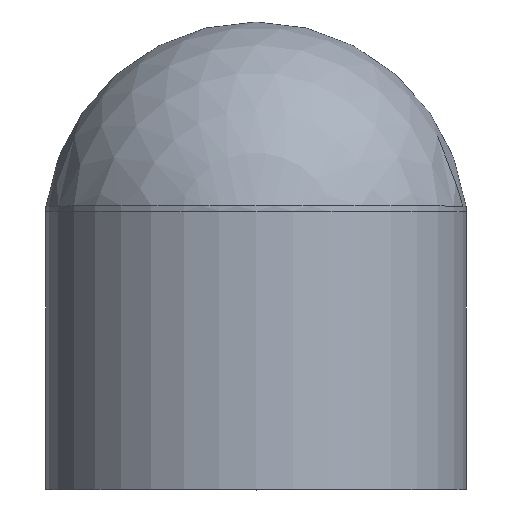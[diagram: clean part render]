
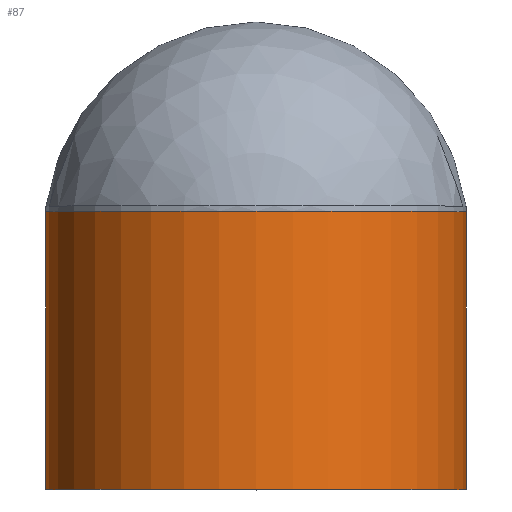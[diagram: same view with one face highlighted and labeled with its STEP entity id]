
A CAD part, top view. The second image highlights one B-rep face of the part: STEP entity #87.
In plain terms, the highlighted cylindrical face has radius 13.5 mm (diameter 27 mm), a full revolution.
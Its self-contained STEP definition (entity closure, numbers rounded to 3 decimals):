
#20=CYLINDRICAL_SURFACE('',#98,13.5);
#23=FACE_BOUND('',#37,.T.);
#28=FACE_OUTER_BOUND('',#36,.T.);
#36=EDGE_LOOP('',(#71));
#37=EDGE_LOOP('',(#72));
#46=CIRCLE('',#96,13.5);
#48=CIRCLE('',#99,13.5);
#53=VERTEX_POINT('',#138);
#55=VERTEX_POINT('',#143);
#61=EDGE_CURVE('',#53,#53,#46,.T.);
#63=EDGE_CURVE('',#55,#55,#48,.T.);
#71=ORIENTED_EDGE('',*,*,#63,.T.);
#72=ORIENTED_EDGE('',*,*,#61,.F.);
#87=ADVANCED_FACE('',(#28,#23),#20,.T.);
#96=AXIS2_PLACEMENT_3D('',#139,#112,#113);
#98=AXIS2_PLACEMENT_3D('',#142,#116,#117);
#99=AXIS2_PLACEMENT_3D('',#144,#118,#119);
#112=DIRECTION('center_axis',(0.,1.,0.));
#113=DIRECTION('ref_axis',(1.,0.,0.));
#116=DIRECTION('center_axis',(0.,1.,0.));
#117=DIRECTION('ref_axis',(-1.,0.,0.));
#118=DIRECTION('center_axis',(0.,1.,0.));
#119=DIRECTION('ref_axis',(1.,0.,0.));
#138=CARTESIAN_POINT('',(-13.5,17.832,0.));
#139=CARTESIAN_POINT('Origin',(0.,17.832,0.));
#142=CARTESIAN_POINT('Origin',(0.,9.,0.));
#143=CARTESIAN_POINT('',(-13.5,0.,0.));
#144=CARTESIAN_POINT('Origin',(0.,0.,0.));
